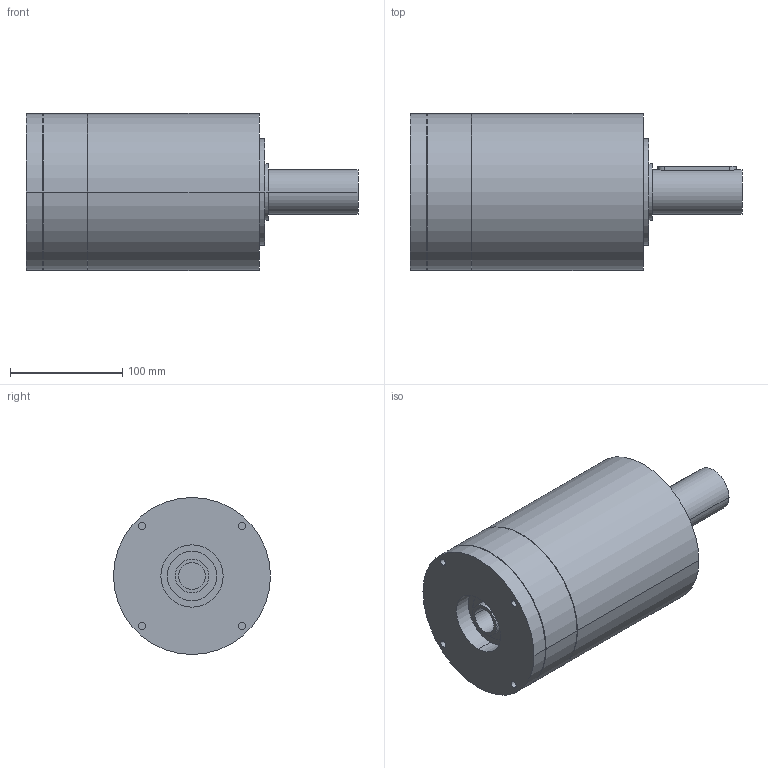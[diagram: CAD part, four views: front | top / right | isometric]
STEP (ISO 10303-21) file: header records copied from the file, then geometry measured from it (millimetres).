
FILE_DESCRIPTION(('CoCreate Modeling STEP Export'),'2;1');
FILE_NAME('GPR150_ig-9-12-16-20-28-35_40_B14_24_P01.stp','2014-08-19T17:03:28',(''),(''),'CoCreate Modeling STEP processor for AP214 (Solid Model)','CoCreate Modeling 16.00C 25-Feb-2009 (C) Parametric Technology GmbH','');
FILE_SCHEMA(('AUTOMOTIVE_DESIGN { 1 0 10303 214 1 1 1 1 }'));
Length unit declared in the file: millimetre
Products named in the file (2): GPR150_ig-9-12-16-20-28-35_40_B14_24_P01
Assembly tree (1 placements, depth 2):
  GPR150_ig-9-12-16-20-28-35_40_B14_24_P01
    GPR150_ig-9-12-16-20-28-35_40_B14_24_P01
Bounding box: 296 x 140 x 140 mm (x, y, z)
Volume: 3273897.8 mm3; surface area: 149614.3 mm2
Topology: 1 solids, 1 shells, 80 faces, 197 edges, 139 vertices
Faces by surface type: cylinder 48, plane 26, cone 6
Entity records: 2030 total; most frequent: ORIENTED_EDGE 390, CARTESIAN_POINT 389, DIRECTION 264, EDGE_CURVE 195, VERTEX_POINT 139, AXIS2_PLACEMENT_3D 102, EDGE_LOOP 102, FACE_OUTER_BOUND 80
